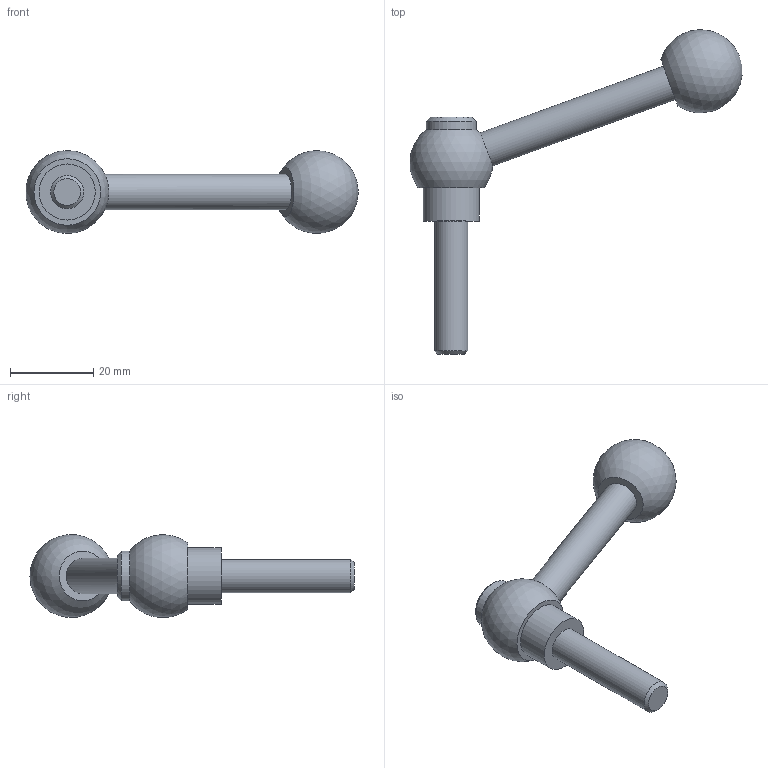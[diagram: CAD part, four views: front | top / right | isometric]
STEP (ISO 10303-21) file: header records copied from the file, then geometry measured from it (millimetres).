
FILE_DESCRIPTION( ( 'STEP AP203' ), '1' );
FILE_NAME( 'C:/Temp/Ganter_Step_05_03_2020/data/2_1/gn_6337_3/gn_6337_3_ms/gn_6337_3_ms_n/Adjustable clamping lever with bolt GN 6337.3-20-M8-32-N.stp', '2020-03-05T11:41:17', ( 'License CC BY-ND 4.0' ), ( 'CADENAS' ), ' ', 'PARTsolutions', ' ' );
FILE_SCHEMA( ( 'CONFIG_CONTROL_DESIGN' ) );
Length unit declared in the file: millimetre
Products named in the file (1): _Adjustable clamping lever with bolt GN 6337.3-20-M8-32-N
Bounding box: 79.86 x 77.98 x 19.97 mm (x, y, z)
Volume: 13407 mm3; surface area: 4794 mm2
Topology: 1 solids, 1 shells, 13 faces, 22 edges, 14 vertices
Faces by surface type: plane 5, cylinder 4, sphere 2, cone 2
Full cylindrical faces by diameter (mm): 8 x1, 8.5 x1, 12 x1, 13.5 x1
Entity records: 364 total; most frequent: CARTESIAN_POINT 104, DIRECTION 50, AXIS2_PLACEMENT_3D 25, EDGE_LOOP 24, ORIENTED_EDGE 24, FACE_OUTER_BOUND 18, ADVANCED_FACE 13, VERTEX_POINT 13
